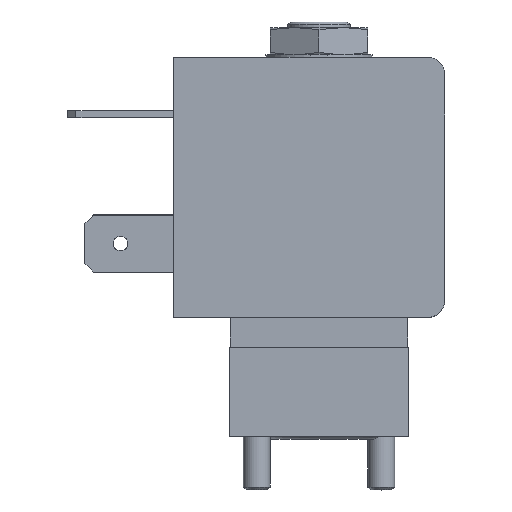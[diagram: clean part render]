
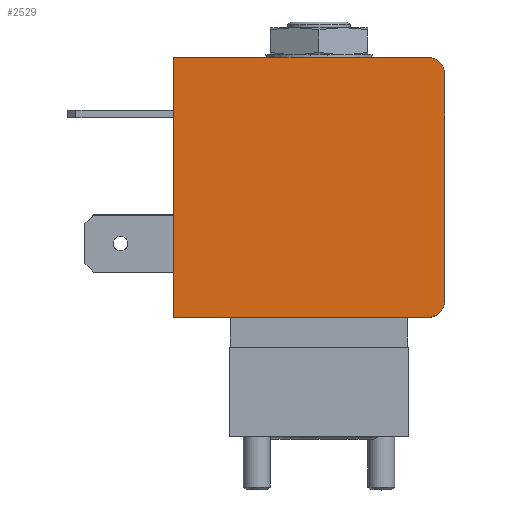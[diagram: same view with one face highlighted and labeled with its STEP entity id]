
A CAD part, top view. The second image highlights one B-rep face of the part: STEP entity #2529.
In plain terms, the highlighted planar face has unit normal (0, 0, 1).
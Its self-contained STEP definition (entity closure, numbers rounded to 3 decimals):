
#82=LINE('',#3316,#244);
#104=LINE('',#3366,#266);
#111=LINE('',#3380,#273);
#115=LINE('',#3392,#277);
#244=VECTOR('',#2818,1000.);
#266=VECTOR('',#2848,1000.);
#273=VECTOR('',#2857,1000.);
#277=VECTOR('',#2869,1000.);
#455=ORIENTED_EDGE('',*,*,#890,.T.);
#456=ORIENTED_EDGE('',*,*,#915,.T.);
#457=ORIENTED_EDGE('',*,*,#922,.T.);
#458=ORIENTED_EDGE('',*,*,#925,.T.);
#459=ORIENTED_EDGE('',*,*,#928,.T.);
#460=ORIENTED_EDGE('',*,*,#930,.T.);
#890=EDGE_CURVE('',#1132,#1131,#82,.T.);
#915=EDGE_CURVE('',#1131,#1155,#104,.T.);
#922=EDGE_CURVE('',#1155,#1161,#111,.T.);
#925=EDGE_CURVE('',#1161,#1163,#1300,.T.);
#928=EDGE_CURVE('',#1163,#1165,#115,.T.);
#930=EDGE_CURVE('',#1165,#1132,#1302,.T.);
#1131=VERTEX_POINT('',#3315);
#1132=VERTEX_POINT('',#3317);
#1155=VERTEX_POINT('',#3365);
#1161=VERTEX_POINT('',#3379);
#1163=VERTEX_POINT('',#3385);
#1165=VERTEX_POINT('',#3391);
#1300=CIRCLE('',#2650,2.);
#1302=CIRCLE('',#2654,2.);
#1363=EDGE_LOOP('',(#455,#456,#457,#458,#459,#460));
#1517=FACE_BOUND('',#1363,.T.);
#1662=PLANE('',#2655);
#2529=ADVANCED_FACE('',(#1517),#1662,.T.);
#2650=AXIS2_PLACEMENT_3D('',#3386,#2863,#2864);
#2654=AXIS2_PLACEMENT_3D('',#3395,#2874,#2875);
#2655=AXIS2_PLACEMENT_3D('',#3396,#2876,#2877);
#2818=DIRECTION('',(-1.,0.,0.));
#2848=DIRECTION('',(0.,-1.,0.));
#2857=DIRECTION('',(1.,0.,0.));
#2863=DIRECTION('',(0.,0.,1.));
#2864=DIRECTION('',(1.,0.,0.));
#2869=DIRECTION('',(0.,1.,0.));
#2874=DIRECTION('',(0.,0.,1.));
#2875=DIRECTION('',(1.,0.,0.));
#2876=DIRECTION('',(0.,0.,1.));
#2877=DIRECTION('',(1.,0.,0.));
#3315=CARTESIAN_POINT('',(-16.3,29.25,10.05));
#3316=CARTESIAN_POINT('',(12.15,29.25,10.05));
#3317=CARTESIAN_POINT('',(12.15,29.25,10.05));
#3365=CARTESIAN_POINT('',(-16.3,0.,10.05));
#3366=CARTESIAN_POINT('',(-16.3,29.25,10.05));
#3379=CARTESIAN_POINT('',(12.15,0.,10.05));
#3380=CARTESIAN_POINT('',(-16.3,0.,10.05));
#3385=CARTESIAN_POINT('',(14.15,2.,10.05));
#3386=CARTESIAN_POINT('',(12.15,2.,10.05));
#3391=CARTESIAN_POINT('',(14.15,27.25,10.05));
#3392=CARTESIAN_POINT('',(14.15,2.,10.05));
#3395=CARTESIAN_POINT('',(12.15,27.25,10.05));
#3396=CARTESIAN_POINT('',(12.15,2.,10.05));
